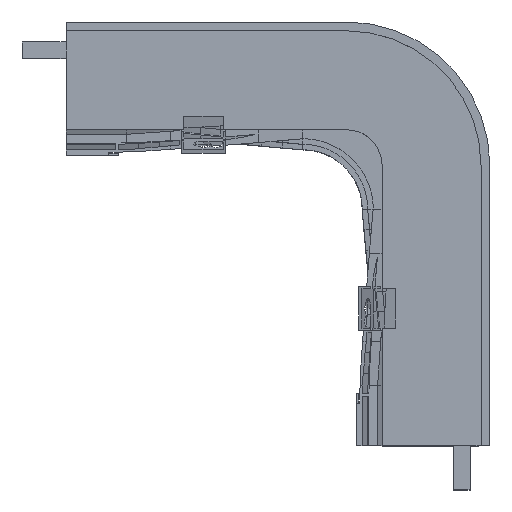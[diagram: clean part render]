
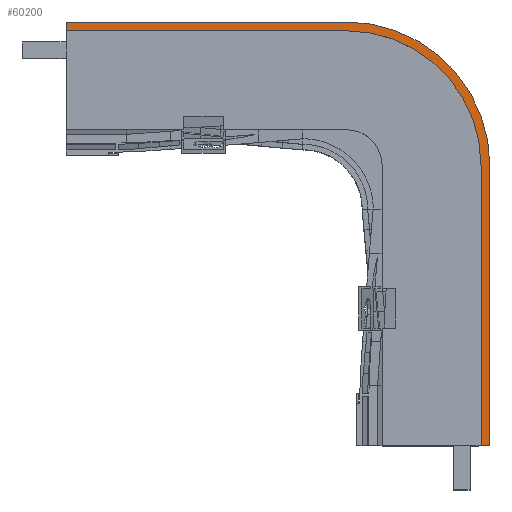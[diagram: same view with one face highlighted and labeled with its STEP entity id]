
A CAD part, top view. The second image highlights one B-rep face of the part: STEP entity #60200.
In plain terms, the highlighted planar face has unit normal (0, 0, 1).
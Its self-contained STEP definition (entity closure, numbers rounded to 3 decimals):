
#22 = VERTEX_POINT('',#23);
#23 = CARTESIAN_POINT('',(117.,178.1,34.5));
#32 = PLANE('',#33);
#33 = AXIS2_PLACEMENT_3D('',#34,#35,#36);
#34 = CARTESIAN_POINT('',(117.,101.,1.));
#35 = DIRECTION('',(1.,0.,-0.));
#36 = DIRECTION('',(0.,0.,1.));
#44 = PLANE('',#45);
#45 = AXIS2_PLACEMENT_3D('',#46,#47,#48);
#46 = CARTESIAN_POINT('',(168.,178.1,30.));
#47 = DIRECTION('',(0.,-1.,0.));
#48 = DIRECTION('',(-1.,0.,0.));
#56 = EDGE_CURVE('',#22,#57,#59,.T.);
#57 = VERTEX_POINT('',#58);
#58 = CARTESIAN_POINT('',(117.,176.5,34.5));
#59 = SURFACE_CURVE('',#60,(#64,#71),.PCURVE_S1.);
#60 = LINE('',#61,#62);
#61 = CARTESIAN_POINT('',(117.,49.041,34.5));
#62 = VECTOR('',#63,1.);
#63 = DIRECTION('',(0.,-1.,0.));
#64 = PCURVE('',#32,#65);
#65 = DEFINITIONAL_REPRESENTATION('',(#66),#70);
#66 = LINE('',#67,#68);
#67 = CARTESIAN_POINT('',(33.5,51.959));
#68 = VECTOR('',#69,1.);
#69 = DIRECTION('',(0.,1.));
#70 = ( GEOMETRIC_REPRESENTATION_CONTEXT(2) 
PARAMETRIC_REPRESENTATION_CONTEXT() REPRESENTATION_CONTEXT('2D SPACE',''
  ) );
#71 = PCURVE('',#72,#77);
#72 = PLANE('',#73);
#73 = AXIS2_PLACEMENT_3D('',#74,#75,#76);
#74 = CARTESIAN_POINT('',(0.,-2.917,34.5));
#75 = DIRECTION('',(0.,0.,1.));
#76 = DIRECTION('',(1.,0.,-0.));
#77 = DEFINITIONAL_REPRESENTATION('',(#78),#82);
#78 = LINE('',#79,#80);
#79 = CARTESIAN_POINT('',(117.,51.959));
#80 = VECTOR('',#81,1.);
#81 = DIRECTION('',(0.,-1.));
#82 = ( GEOMETRIC_REPRESENTATION_CONTEXT(2) 
PARAMETRIC_REPRESENTATION_CONTEXT() REPRESENTATION_CONTEXT('2D SPACE',''
  ) );
#100 = PLANE('',#101);
#101 = AXIS2_PLACEMENT_3D('',#102,#103,#104);
#102 = CARTESIAN_POINT('',(168.,176.5,29.));
#103 = DIRECTION('',(0.,-1.,0.));
#104 = DIRECTION('',(-1.,0.,0.));
#1090 = CYLINDRICAL_SURFACE('',#1091,26.1);
#1091 = AXIS2_PLACEMENT_3D('',#1092,#1093,#1094);
#1092 = CARTESIAN_POINT('',(168.,152.,30.));
#1093 = DIRECTION('',(-0.,-0.,-1.));
#1094 = DIRECTION('',(1.,0.,-0.));
#1151 = PLANE('',#1152);
#1152 = AXIS2_PLACEMENT_3D('',#1153,#1154,#1155);
#1153 = CARTESIAN_POINT('',(117.,101.,1.));
#1154 = DIRECTION('',(-0.,1.,0.));
#1155 = DIRECTION('',(0.,0.,1.));
#1204 = PLANE('',#1205);
#1205 = AXIS2_PLACEMENT_3D('',#1206,#1207,#1208);
#1206 = CARTESIAN_POINT('',(194.1,-178.1,30.));
#1207 = DIRECTION('',(-1.,0.,0.));
#1208 = DIRECTION('',(0.,1.,0.));
#1221 = VERTEX_POINT('',#1222);
#1222 = CARTESIAN_POINT('',(194.1,101.,34.5));
#1243 = EDGE_CURVE('',#1221,#1244,#1246,.T.);
#1244 = VERTEX_POINT('',#1245);
#1245 = CARTESIAN_POINT('',(194.1,152.,34.5));
#1246 = SURFACE_CURVE('',#1247,(#1251,#1258),.PCURVE_S1.);
#1247 = LINE('',#1248,#1249);
#1248 = CARTESIAN_POINT('',(194.1,-178.1,34.5));
#1249 = VECTOR('',#1250,1.);
#1250 = DIRECTION('',(0.,1.,0.));
#1251 = PCURVE('',#1204,#1252);
#1252 = DEFINITIONAL_REPRESENTATION('',(#1253),#1257);
#1253 = LINE('',#1254,#1255);
#1254 = CARTESIAN_POINT('',(0.,-4.5));
#1255 = VECTOR('',#1256,1.);
#1256 = DIRECTION('',(1.,0.));
#1257 = ( GEOMETRIC_REPRESENTATION_CONTEXT(2) 
PARAMETRIC_REPRESENTATION_CONTEXT() REPRESENTATION_CONTEXT('2D SPACE',''
  ) );
#1258 = PCURVE('',#72,#1259);
#1259 = DEFINITIONAL_REPRESENTATION('',(#1260),#1264);
#1260 = LINE('',#1261,#1262);
#1261 = CARTESIAN_POINT('',(194.1,-175.183));
#1262 = VECTOR('',#1263,1.);
#1263 = DIRECTION('',(0.,1.));
#1264 = ( GEOMETRIC_REPRESENTATION_CONTEXT(2) 
PARAMETRIC_REPRESENTATION_CONTEXT() REPRESENTATION_CONTEXT('2D SPACE',''
  ) );
#1443 = VERTEX_POINT('',#1444);
#1444 = CARTESIAN_POINT('',(192.5,101.,34.5));
#1458 = PLANE('',#1459);
#1459 = AXIS2_PLACEMENT_3D('',#1460,#1461,#1462);
#1460 = CARTESIAN_POINT('',(192.5,-176.5,29.));
#1461 = DIRECTION('',(-1.,0.,0.));
#1462 = DIRECTION('',(0.,1.,0.));
#1470 = EDGE_CURVE('',#1443,#1221,#1471,.T.);
#1471 = SURFACE_CURVE('',#1472,(#1476,#1483),.PCURVE_S1.);
#1472 = LINE('',#1473,#1474);
#1473 = CARTESIAN_POINT('',(58.5,101.,34.5));
#1474 = VECTOR('',#1475,1.);
#1475 = DIRECTION('',(1.,0.,-0.));
#1476 = PCURVE('',#1151,#1477);
#1477 = DEFINITIONAL_REPRESENTATION('',(#1478),#1482);
#1478 = LINE('',#1479,#1480);
#1479 = CARTESIAN_POINT('',(33.5,-58.5));
#1480 = VECTOR('',#1481,1.);
#1481 = DIRECTION('',(0.,1.));
#1482 = ( GEOMETRIC_REPRESENTATION_CONTEXT(2) 
PARAMETRIC_REPRESENTATION_CONTEXT() REPRESENTATION_CONTEXT('2D SPACE',''
  ) );
#1483 = PCURVE('',#72,#1484);
#1484 = DEFINITIONAL_REPRESENTATION('',(#1485),#1489);
#1485 = LINE('',#1486,#1487);
#1486 = CARTESIAN_POINT('',(58.5,103.917));
#1487 = VECTOR('',#1488,1.);
#1488 = DIRECTION('',(1.,0.));
#1489 = ( GEOMETRIC_REPRESENTATION_CONTEXT(2) 
PARAMETRIC_REPRESENTATION_CONTEXT() REPRESENTATION_CONTEXT('2D SPACE',''
  ) );
#58824 = VERTEX_POINT('',#58825);
#58825 = CARTESIAN_POINT('',(192.5,152.,34.5));
#58839 = CYLINDRICAL_SURFACE('',#58840,24.5);
#58840 = AXIS2_PLACEMENT_3D('',#58841,#58842,#58843);
#58841 = CARTESIAN_POINT('',(168.,152.,29.));
#58842 = DIRECTION('',(-0.,-0.,-1.));
#58843 = DIRECTION('',(1.,0.,-0.));
#58873 = EDGE_CURVE('',#58824,#1443,#58874,.T.);
#58874 = SURFACE_CURVE('',#58875,(#58879,#58886),.PCURVE_S1.);
#58875 = LINE('',#58876,#58877);
#58876 = CARTESIAN_POINT('',(192.5,-89.709,34.5));
#58877 = VECTOR('',#58878,1.);
#58878 = DIRECTION('',(0.,-1.,0.));
#58879 = PCURVE('',#1458,#58880);
#58880 = DEFINITIONAL_REPRESENTATION('',(#58881),#58885);
#58881 = LINE('',#58882,#58883);
#58882 = CARTESIAN_POINT('',(86.791,-5.5));
#58883 = VECTOR('',#58884,1.);
#58884 = DIRECTION('',(-1.,0.));
#58885 = ( GEOMETRIC_REPRESENTATION_CONTEXT(2) 
PARAMETRIC_REPRESENTATION_CONTEXT() REPRESENTATION_CONTEXT('2D SPACE',''
  ) );
#58886 = PCURVE('',#72,#58887);
#58887 = DEFINITIONAL_REPRESENTATION('',(#58888),#58892);
#58888 = LINE('',#58889,#58890);
#58889 = CARTESIAN_POINT('',(192.5,-86.791));
#58890 = VECTOR('',#58891,1.);
#58891 = DIRECTION('',(0.,-1.));
#58892 = ( GEOMETRIC_REPRESENTATION_CONTEXT(2) 
PARAMETRIC_REPRESENTATION_CONTEXT() REPRESENTATION_CONTEXT('2D SPACE',''
  ) );
#58897 = EDGE_CURVE('',#58898,#58824,#58900,.T.);
#58898 = VERTEX_POINT('',#58899);
#58899 = CARTESIAN_POINT('',(168.,176.5,34.5));
#58900 = SURFACE_CURVE('',#58901,(#58906,#58913),.PCURVE_S1.);
#58901 = CIRCLE('',#58902,24.5);
#58902 = AXIS2_PLACEMENT_3D('',#58903,#58904,#58905);
#58903 = CARTESIAN_POINT('',(168.,152.,34.5));
#58904 = DIRECTION('',(0.,0.,-1.));
#58905 = DIRECTION('',(1.,0.,0.));
#58906 = PCURVE('',#58839,#58907);
#58907 = DEFINITIONAL_REPRESENTATION('',(#58908),#58912);
#58908 = LINE('',#58909,#58910);
#58909 = CARTESIAN_POINT('',(0.,-5.5));
#58910 = VECTOR('',#58911,1.);
#58911 = DIRECTION('',(1.,-0.));
#58912 = ( GEOMETRIC_REPRESENTATION_CONTEXT(2) 
PARAMETRIC_REPRESENTATION_CONTEXT() REPRESENTATION_CONTEXT('2D SPACE',''
  ) );
#58913 = PCURVE('',#72,#58914);
#58914 = DEFINITIONAL_REPRESENTATION('',(#58915),#58923);
#58915 = ( BOUNDED_CURVE() B_SPLINE_CURVE(2,(#58916,#58917,#58918,#58919
    ,#58920,#58921,#58922),.UNSPECIFIED.,.T.,.F.) 
B_SPLINE_CURVE_WITH_KNOTS((1,2,2,2,2,1),(-2.094,0.,
    2.094,4.189,6.283,8.378),
.UNSPECIFIED.) CURVE() GEOMETRIC_REPRESENTATION_ITEM() 
RATIONAL_B_SPLINE_CURVE((1.,0.5,1.,0.5,1.,0.5,1.)) REPRESENTATION_ITEM(
  '') );
#58916 = CARTESIAN_POINT('',(192.5,154.917));
#58917 = CARTESIAN_POINT('',(192.5,112.482));
#58918 = CARTESIAN_POINT('',(155.75,133.7));
#58919 = CARTESIAN_POINT('',(119.,154.917));
#58920 = CARTESIAN_POINT('',(155.75,176.135));
#58921 = CARTESIAN_POINT('',(192.5,197.352));
#58922 = CARTESIAN_POINT('',(192.5,154.917));
#58923 = ( GEOMETRIC_REPRESENTATION_CONTEXT(2) 
PARAMETRIC_REPRESENTATION_CONTEXT() REPRESENTATION_CONTEXT('2D SPACE',''
  ) );
#59038 = VERTEX_POINT('',#59039);
#59039 = CARTESIAN_POINT('',(168.,178.1,34.5));
#59060 = EDGE_CURVE('',#1244,#59038,#59061,.T.);
#59061 = SURFACE_CURVE('',#59062,(#59067,#59074),.PCURVE_S1.);
#59062 = CIRCLE('',#59063,26.1);
#59063 = AXIS2_PLACEMENT_3D('',#59064,#59065,#59066);
#59064 = CARTESIAN_POINT('',(168.,152.,34.5));
#59065 = DIRECTION('',(0.,0.,1.));
#59066 = DIRECTION('',(1.,0.,-0.));
#59067 = PCURVE('',#1090,#59068);
#59068 = DEFINITIONAL_REPRESENTATION('',(#59069),#59073);
#59069 = LINE('',#59070,#59071);
#59070 = CARTESIAN_POINT('',(6.283,-4.5));
#59071 = VECTOR('',#59072,1.);
#59072 = DIRECTION('',(-1.,0.));
#59073 = ( GEOMETRIC_REPRESENTATION_CONTEXT(2) 
PARAMETRIC_REPRESENTATION_CONTEXT() REPRESENTATION_CONTEXT('2D SPACE',''
  ) );
#59074 = PCURVE('',#72,#59075);
#59075 = DEFINITIONAL_REPRESENTATION('',(#59076),#59080);
#59076 = CIRCLE('',#59077,26.1);
#59077 = AXIS2_PLACEMENT_2D('',#59078,#59079);
#59078 = CARTESIAN_POINT('',(168.,154.917));
#59079 = DIRECTION('',(1.,0.));
#59080 = ( GEOMETRIC_REPRESENTATION_CONTEXT(2) 
PARAMETRIC_REPRESENTATION_CONTEXT() REPRESENTATION_CONTEXT('2D SPACE',''
  ) );
#60180 = EDGE_CURVE('',#57,#58898,#60181,.T.);
#60181 = SURFACE_CURVE('',#60182,(#60186,#60193),.PCURVE_S1.);
#60182 = LINE('',#60183,#60184);
#60183 = CARTESIAN_POINT('',(84.,176.5,34.5));
#60184 = VECTOR('',#60185,1.);
#60185 = DIRECTION('',(1.,0.,-0.));
#60186 = PCURVE('',#100,#60187);
#60187 = DEFINITIONAL_REPRESENTATION('',(#60188),#60192);
#60188 = LINE('',#60189,#60190);
#60189 = CARTESIAN_POINT('',(84.,-5.5));
#60190 = VECTOR('',#60191,1.);
#60191 = DIRECTION('',(-1.,0.));
#60192 = ( GEOMETRIC_REPRESENTATION_CONTEXT(2) 
PARAMETRIC_REPRESENTATION_CONTEXT() REPRESENTATION_CONTEXT('2D SPACE',''
  ) );
#60193 = PCURVE('',#72,#60194);
#60194 = DEFINITIONAL_REPRESENTATION('',(#60195),#60199);
#60195 = LINE('',#60196,#60197);
#60196 = CARTESIAN_POINT('',(84.,179.417));
#60197 = VECTOR('',#60198,1.);
#60198 = DIRECTION('',(1.,0.));
#60199 = ( GEOMETRIC_REPRESENTATION_CONTEXT(2) 
PARAMETRIC_REPRESENTATION_CONTEXT() REPRESENTATION_CONTEXT('2D SPACE',''
  ) );
#60200 = ADVANCED_FACE('',(#60201),#72,.T.);
#60201 = FACE_BOUND('',#60202,.T.);
#60202 = EDGE_LOOP('',(#60203,#60204,#60205,#60206,#60227,#60228,#60229,
    #60230));
#60203 = ORIENTED_EDGE('',*,*,#1470,.T.);
#60204 = ORIENTED_EDGE('',*,*,#1243,.T.);
#60205 = ORIENTED_EDGE('',*,*,#59060,.T.);
#60206 = ORIENTED_EDGE('',*,*,#60207,.T.);
#60207 = EDGE_CURVE('',#59038,#22,#60208,.T.);
#60208 = SURFACE_CURVE('',#60209,(#60213,#60220),.PCURVE_S1.);
#60209 = LINE('',#60210,#60211);
#60210 = CARTESIAN_POINT('',(168.,178.1,34.5));
#60211 = VECTOR('',#60212,1.);
#60212 = DIRECTION('',(-1.,0.,0.));
#60213 = PCURVE('',#72,#60214);
#60214 = DEFINITIONAL_REPRESENTATION('',(#60215),#60219);
#60215 = LINE('',#60216,#60217);
#60216 = CARTESIAN_POINT('',(168.,181.017));
#60217 = VECTOR('',#60218,1.);
#60218 = DIRECTION('',(-1.,0.));
#60219 = ( GEOMETRIC_REPRESENTATION_CONTEXT(2) 
PARAMETRIC_REPRESENTATION_CONTEXT() REPRESENTATION_CONTEXT('2D SPACE',''
  ) );
#60220 = PCURVE('',#44,#60221);
#60221 = DEFINITIONAL_REPRESENTATION('',(#60222),#60226);
#60222 = LINE('',#60223,#60224);
#60223 = CARTESIAN_POINT('',(0.,-4.5));
#60224 = VECTOR('',#60225,1.);
#60225 = DIRECTION('',(1.,0.));
#60226 = ( GEOMETRIC_REPRESENTATION_CONTEXT(2) 
PARAMETRIC_REPRESENTATION_CONTEXT() REPRESENTATION_CONTEXT('2D SPACE',''
  ) );
#60227 = ORIENTED_EDGE('',*,*,#56,.T.);
#60228 = ORIENTED_EDGE('',*,*,#60180,.T.);
#60229 = ORIENTED_EDGE('',*,*,#58897,.T.);
#60230 = ORIENTED_EDGE('',*,*,#58873,.T.);
